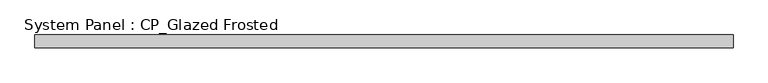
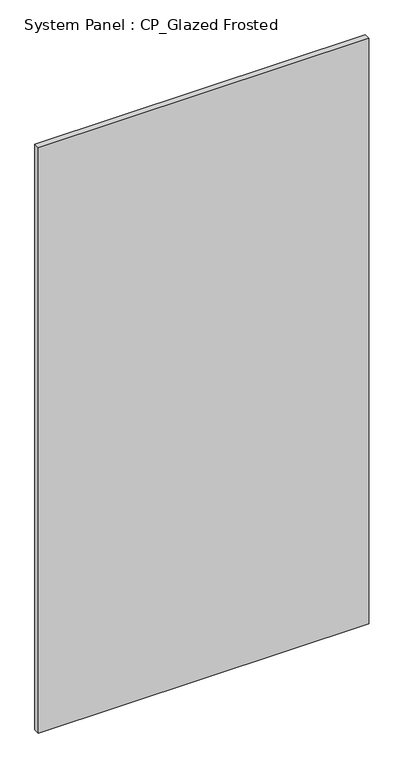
"""IFC4 building model written with IfcOpenShell, lengths in millimetres: plate geometry, System Panel : CP_Glazed Frosted."""

import ifcopenshell
import ifcopenshell.guid

model = None  # the IFC model being written
_history = None  # IfcOwnerHistory: only IFC2X3 demands one
_inside = {}  # id of a spatial element -> (the spatial element, [elements in it])
_under = {}  # id of a project, library or spatial element -> (it, [spatial elements below it])
_declared = {}  # id of a project -> (the project, [libraries it declares])
_typed = {}  # id of a type object -> (the type object, [elements of that type])
_made_of = {}  # id of a material, layer set ... -> (it, [elements and type objects made of it])


def new_model(schema):
    """Start an empty IFC model of exactly this schema.

    Asked for "IFC4X3", IfcOpenShell would pick the latest addendum, in which some entities
    have other attributes; the version numbers below select the first issue.
    IFC2X3 requires an IfcOwnerHistory on every rooted entity: one is made here for all.
    """
    global model, _history
    if schema == "IFC4X3":
        model = ifcopenshell.file(schema_version=(4, 3, 0, 0))
    else:
        model = ifcopenshell.file(schema=schema)
    _inside.clear()
    _under.clear()
    _declared.clear()
    _typed.clear()
    _made_of.clear()
    _history = None
    if model.schema == "IFC2X3":
        org = make("IfcOrganization", Name="unknown")
        user = make(
            "IfcPersonAndOrganization",
            ThePerson=make("IfcPerson", FamilyName="unknown"),
            TheOrganization=org,
        )
        app = make(
            "IfcApplication",
            ApplicationDeveloper=org,
            Version="unknown",
            ApplicationFullName="unknown",
            ApplicationIdentifier="unknown",
        )
        _history = make(
            "IfcOwnerHistory",
            OwningUser=user,
            OwningApplication=app,
            ChangeAction="ADDED",
            CreationDate=0,
        )
    return model


def make(cls, **values):
    """One entity of the class cls with the attributes given. An attribute that is None is left unset."""
    return model.create_entity(
        cls, **{name: value for name, value in values.items() if value is not None}
    )


def rooted(cls, **values):
    """An entity with a GlobalId (a new one), such as an element, a storey or a relation."""
    return make(cls, GlobalId=ifcopenshell.guid.new(), OwnerHistory=_history, **values)


def si_unit(unit_type, name, prefix=None):
    """IfcSIUnit, for example si_unit("LENGTHUNIT", "METRE", prefix="MILLI")."""
    return make("IfcSIUnit", UnitType=unit_type, Prefix=prefix, Name=name)


def assignment(units):
    """IfcUnitAssignment: the units of a project."""
    return None if units is None else make("IfcUnitAssignment", Units=units)


def point(xyz):
    """IfcCartesianPoint."""
    return None if xyz is None else make("IfcCartesianPoint", Coordinates=xyz)


def direction(xyz):
    """IfcDirection."""
    return None if xyz is None else make("IfcDirection", DirectionRatios=xyz)


def frame(location, z_axis=None, x_axis=None):
    """IfcAxis2Placement3D, a coordinate frame: its origin and axes. An axis left out is left unset."""
    return make(
        "IfcAxis2Placement3D",
        Location=point(location),
        Axis=direction(z_axis),
        RefDirection=direction(x_axis),
    )


def origin():
    """The frame at (0, 0, 0) with its axes left unset."""
    return frame((0.0, 0.0, 0.0))


def origin_with_axes():
    """The frame at (0, 0, 0) with the z axis (0, 0, 1) and the x axis (1, 0, 0) written out."""
    return frame((0.0, 0.0, 0.0), z_axis=(0.0, 0.0, 1.0), x_axis=(1.0, 0.0, 0.0))


def place(relative_to, where):
    """IfcLocalPlacement: puts the frame where relative to a parent placement (None: the world)."""
    return make(
        "IfcLocalPlacement", PlacementRelTo=relative_to, RelativePlacement=where
    )


def context(
    kind, dimensions, precision=None, world=None, true_north=None, identifier=None
):
    """IfcGeometricRepresentationContext, for example the 3D "Model" context."""
    return make(
        "IfcGeometricRepresentationContext",
        ContextIdentifier=identifier,
        ContextType=kind,
        CoordinateSpaceDimension=dimensions,
        Precision=precision,
        WorldCoordinateSystem=world,
        TrueNorth=true_north,
    )


def project(units=None, contexts=None):
    """IfcProject with its units and contexts."""
    return rooted(
        "IfcProject",
        Name="project",
        RepresentationContexts=contexts,
        UnitsInContext=assignment(units),
    )


def spatial(cls, under=None, at=None, **own):
    """A site, building, storey or space (cls), placed at a placement, below another one or the project."""
    s = rooted(cls, ObjectPlacement=at, **own)
    if under is not None:
        _under.setdefault(under.id(), (under, []))[1].append(s)
    return s


def polyline(points):
    """IfcPolyline through the points."""
    return make("IfcPolyline", Points=[point(p) for p in points])


def outline(outer, holes=None, kind="AREA"):
    """IfcArbitraryClosedProfileDef: a profile drawn as a closed curve; with holes, ...WithVoids."""
    if holes is None:
        return make("IfcArbitraryClosedProfileDef", ProfileType=kind, OuterCurve=outer)
    return make(
        "IfcArbitraryProfileDefWithVoids",
        ProfileType=kind,
        OuterCurve=outer,
        InnerCurves=holes,
    )


def extrude(swept, where, along, depth):
    """IfcExtrudedAreaSolid: the profile swept, set in the frame where, extruded along a direction by depth."""
    return make(
        "IfcExtrudedAreaSolid",
        SweptArea=swept,
        Position=where,
        ExtrudedDirection=direction(along),
        Depth=depth,
    )


def shape(context_of_items, identifier, shape_type, items):
    """IfcShapeRepresentation: the items that make up one representation, for example the "Body"."""
    return make(
        "IfcShapeRepresentation",
        ContextOfItems=context_of_items,
        RepresentationIdentifier=identifier,
        RepresentationType=shape_type,
        Items=items,
    )


def source(mapping_origin, context_of_items, identifier, shape_type, items):
    """IfcRepresentationMap: a shape defined once, which mapped items show again and again."""
    return make(
        "IfcRepresentationMap",
        MappingOrigin=mapping_origin,
        MappedRepresentation=shape(context_of_items, identifier, shape_type, items),
    )


def transform(
    local_origin,
    x_axis=None,
    y_axis=None,
    z_axis=None,
    scale=None,
    scale2=None,
    scale3=None,
    uniform=True,
):
    """IfcCartesianTransformationOperator3D, or its non-uniform kind. x_axis, y_axis, z_axis: its Axis1, 2, 3."""
    if uniform:
        return make(
            "IfcCartesianTransformationOperator3D",
            Axis1=direction(x_axis),
            Axis2=direction(y_axis),
            LocalOrigin=point(local_origin),
            Scale=scale,
            Axis3=direction(z_axis),
        )
    return make(
        "IfcCartesianTransformationOperator3DnonUniform",
        Axis1=direction(x_axis),
        Axis2=direction(y_axis),
        LocalOrigin=point(local_origin),
        Scale=scale,
        Axis3=direction(z_axis),
        Scale2=scale2,
        Scale3=scale3,
    )


def mapped(mapping_source, mapping_target):
    """IfcMappedItem: shows the shape of a source again, moved by a transform."""
    return make(
        "IfcMappedItem", MappingSource=mapping_source, MappingTarget=mapping_target
    )


def made_of(thing, what):
    """Note that an element or type object is made of a material, layer set ...; save() writes the relation."""
    if what is not None:
        _made_of.setdefault(what.id(), (what, []))[1].append(thing)
    return thing


def element(
    cls,
    number,
    at=None,
    inside=None,
    cuts=None,
    type_object=None,
    material=None,
    context=None,
    identifier="Body",
    shape_type=None,
    held_by="IfcProductDefinitionShape",
    body=None,
    shapes=None,
    **own,
):
    """One element of the class cls, such as IfcWall. Its Tag is "e" and its number.

    at: its placement. inside: the storey or other place that contains it. cuts: it is an
    opening in that element (IfcRelVoidsElement). A single representation is given by context,
    identifier, shape_type and body (its items); several are given by shapes. held_by: the class
    of the entity that holds the representations. save() writes the other relations.
    """
    e = rooted(cls, Tag="e%d" % number, ObjectPlacement=at, **own)
    if body is not None:
        shapes = [shape(context, identifier, shape_type, body)]
    if shapes is not None:
        e.Representation = make(held_by, Representations=shapes)
    if inside is not None:
        _inside.setdefault(inside.id(), (inside, []))[1].append(e)
    if cuts is not None:
        rooted(
            "IfcRelVoidsElement", RelatingBuildingElement=cuts, RelatedOpeningElement=e
        )
    if type_object is not None:
        _typed.setdefault(type_object.id(), (type_object, []))[1].append(e)
    return made_of(e, material)


def aggregate(whole, parts):
    """IfcRelAggregates: a whole, such as a stair, and the parts it consists of."""
    return rooted("IfcRelAggregates", RelatingObject=whole, RelatedObjects=parts)


def save(model, path):
    """Write the relations noted so far, then the file.

    IfcRelAggregates (storeys below a building ...), IfcRelContainedInSpatialStructure (elements
    in a storey), IfcRelDefinesByType, IfcRelAssociatesMaterial and IfcRelDeclares: one each for
    every whole, place, type object, material and project.
    """
    for whole, parts in _under.values():
        aggregate(whole, parts)
    for where, things in _inside.values():
        rooted(
            "IfcRelContainedInSpatialStructure",
            RelatedElements=things,
            RelatingStructure=where,
        )
    for kind, things in _typed.values():
        rooted("IfcRelDefinesByType", RelatedObjects=things, RelatingType=kind)
    for what, things in _made_of.values():
        rooted("IfcRelAssociatesMaterial", RelatedObjects=things, RelatingMaterial=what)
    for by, libraries in _declared.values():
        rooted("IfcRelDeclares", RelatingContext=by, RelatedDefinitions=libraries)
    model.write(path)


def system_panel_cp_glazed_frosted_c7825f75(model_context):
    return source(origin(), model_context, "Body", "SweptSolid", [
        extrude(outline(polyline([(698.5, -44.45), (-698.5, -44.45), (-698.5, -19.05), (698.5, -19.05), (698.5, -44.45)])), origin_with_axes(), (0.0, 0.0, 1.0), 2616.2),
    ])


if __name__ == "__main__":
    model = new_model("IFC4")
    model_context = context("Model", 3, world=origin())
    ifc_project = project(units=[si_unit("LENGTHUNIT", "METRE", prefix="MILLI")], contexts=[model_context])
    site = spatial("IfcSite", under=ifc_project)
    building = spatial("IfcBuilding", under=site)
    placement = place(None, origin())
    system_panel_cp_glazed_frosted_shape = system_panel_cp_glazed_frosted_c7825f75(model_context)
    element("IfcPlate", 1, ObjectType="System Panel : CP_Glazed Frosted", at=placement, inside=building, context=model_context, shape_type="MappedRepresentation", body=[
        mapped(system_panel_cp_glazed_frosted_shape, transform((0.0, 0.0, 0.0), x_axis=(1.0, 0.0, 0.0), y_axis=(0.0, 1.0, 0.0), z_axis=(0.0, 0.0, 1.0))),
    ])
    save(model, "model.ifc")
